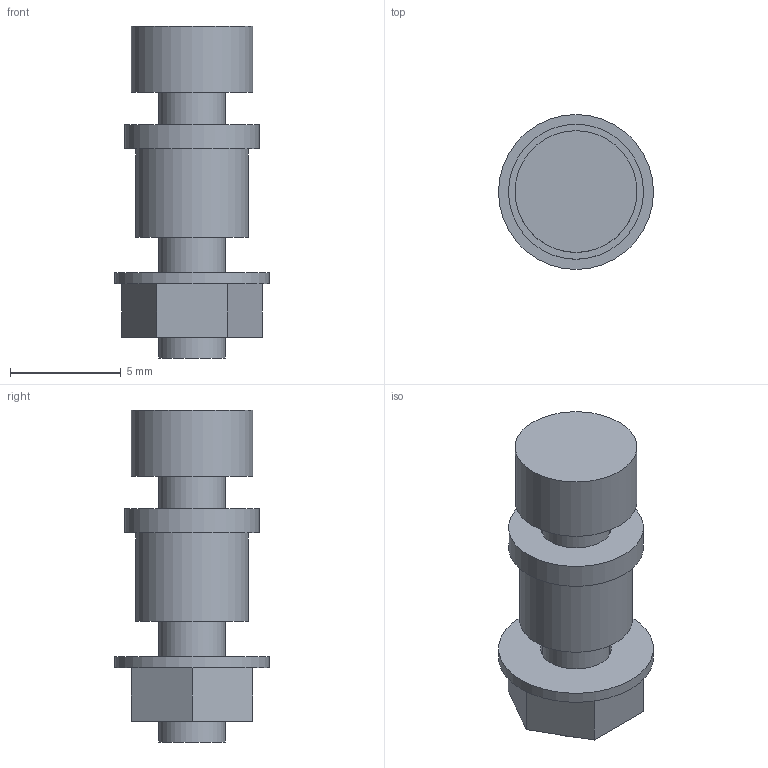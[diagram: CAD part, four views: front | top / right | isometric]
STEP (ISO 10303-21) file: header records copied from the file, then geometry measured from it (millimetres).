
FILE_DESCRIPTION(('Open CASCADE Model'),'2;1');
FILE_NAME('Open CASCADE Shape Model','2026-10-30T08:38:47',('Author'),( 'Open CASCADE'),'Open CASCADE STEP processor 8.0','Open CASCADE 8.0' ,'Unknown');
FILE_SCHEMA(('AUTOMOTIVE_DESIGN { 1 0 10303 214 1 1 1 1 }'));
Length unit declared in the file: millimetre
Products named in the file (6): Harwin R30-6200414 spacer - simplified envelope; Fitted shim aggregate - illustrative1.10mm, fit after seating; M3x12 screw shank - unthreaded visual envelope; M3 socket head maximum5.50x3.00mm - no socket detail; DIN125 nylon insulating washer nominal7x3.2x0.5mm; Harwin KA1-4300000 nut maximumAF5.50,H2.40 - no thread
Bounding box: 7 x 7 x 15 mm (x, y, z)
Volume: 287.7 mm3; surface area: 613.2 mm2
Topology: 6 solids, 6 shells, 27 faces, 45 edges, 30 vertices
Faces by surface type: plane 18, cylinder 9
Full cylindrical faces by diameter (mm): 3 x1, 3.2 x4, 5.1 x1, 5.5 x1, 6.1 x1, 7 x1
Entity records: 1352 total; most frequent: DIRECTION 209, CARTESIAN_POINT 193, LINE 99, VECTOR 99, ORIENTED_EDGE 90, PCURVE 90, DEFINITIONAL_REPRESENTATION 90, AXIS2_PLACEMENT_3D 46
